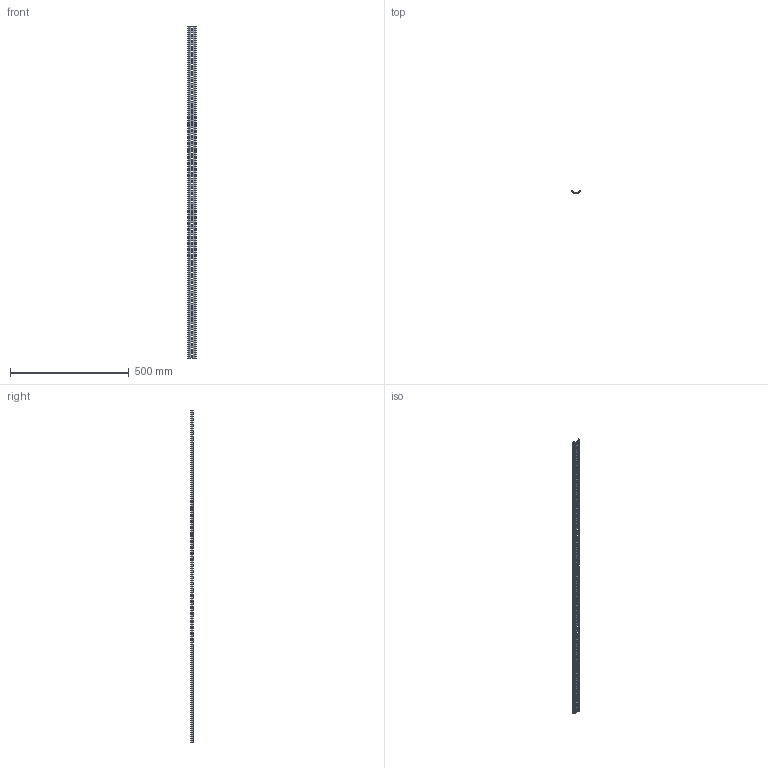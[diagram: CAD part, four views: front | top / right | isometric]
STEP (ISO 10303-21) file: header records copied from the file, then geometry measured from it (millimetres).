
FILE_DESCRIPTION (( 'STEP AP214' ), '1' );
FILE_NAME ('DIN-ðåéêà 1400ìì õ 0,1 ìì.STEP', '2025-10-22T11:56:07', ( '' ), ( '' ), 'SwSTEP 2.0', 'SolidWorks 2018', '' );
FILE_SCHEMA (( 'AUTOMOTIVE_DESIGN' ));
Length unit declared in the file: millimetre
Products named in the file (1): DIN-ðåéêà 1400ìì õ 0,1 ìì
Bounding box: 35.2 x 8.5 x 1400 mm (x, y, z)
Volume: 57359.2 mm3; surface area: 120006.4 mm2
Topology: 1 solids, 1 shells, 318 faces, 916 edges, 600 vertices
Faces by surface type: cylinder 176, plane 142
Entity records: 10774 total; most frequent: DIRECTION 1906, CARTESIAN_POINT 1835, ORIENTED_EDGE 1832, EDGE_CURVE 916, AXIS2_PLACEMENT_3D 671, VERTEX_POINT 600, LINE 564, VECTOR 564
